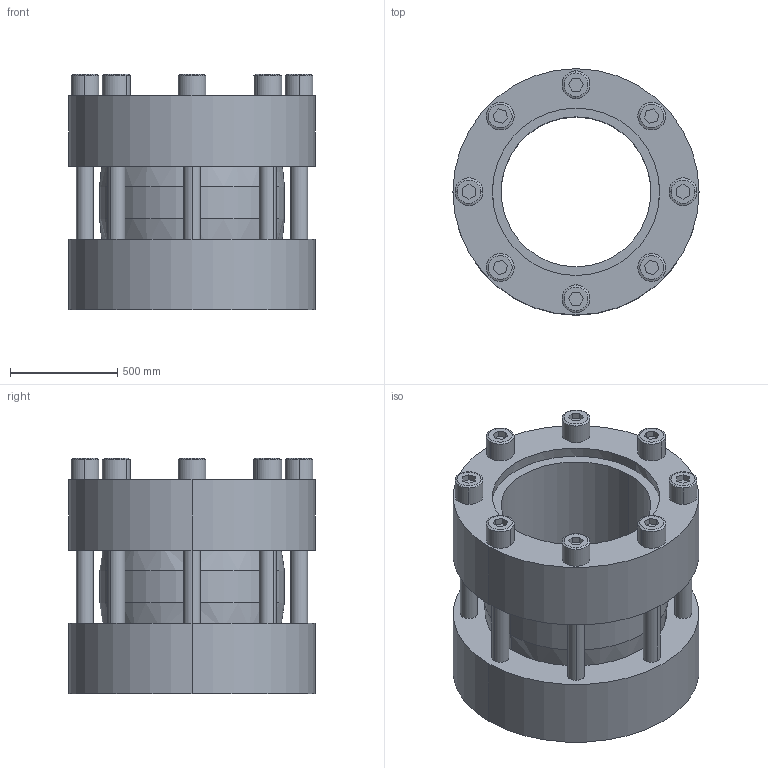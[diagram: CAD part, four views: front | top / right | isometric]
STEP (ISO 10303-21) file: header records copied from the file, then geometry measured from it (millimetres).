
FILE_DESCRIPTION (( 'STEP AP203' ), '1' );
FILE_NAME ('SM-070_.STEP', '2020-04-01T07:55:42', ( '' ), ( '' ), 'SwSTEP 2.0', 'SolidWorks 2018', '' );
FILE_SCHEMA (( 'CONFIG_CONTROL_DESIGN' ));
Length unit declared in the file: inch
Products named in the file (5): SM-070; _U14-1; SM-070_; _U15; 875
Assembly tree (11 placements, depth 4):
  SM-070_
    _U15
      _U14-1  x8
        875
    SM-070
Bounding box: 1150 x 1150 x 1100 mm (x, y, z)
Volume: 502875421.8 mm3; surface area: 14149362.7 mm2
Topology: 19 solids, 19 shells, 190 faces, 428 edges, 284 vertices
Faces by surface type: plane 94, cylinder 72, cone 24
Entity records: 2997 total; most frequent: DIRECTION 454, CARTESIAN_POINT 379, ORIENTED_EDGE 352, AXIS2_PLACEMENT_3D 191, EDGE_CURVE 176, VERTEX_POINT 116, EDGE_LOOP 110, CIRCLE 104
